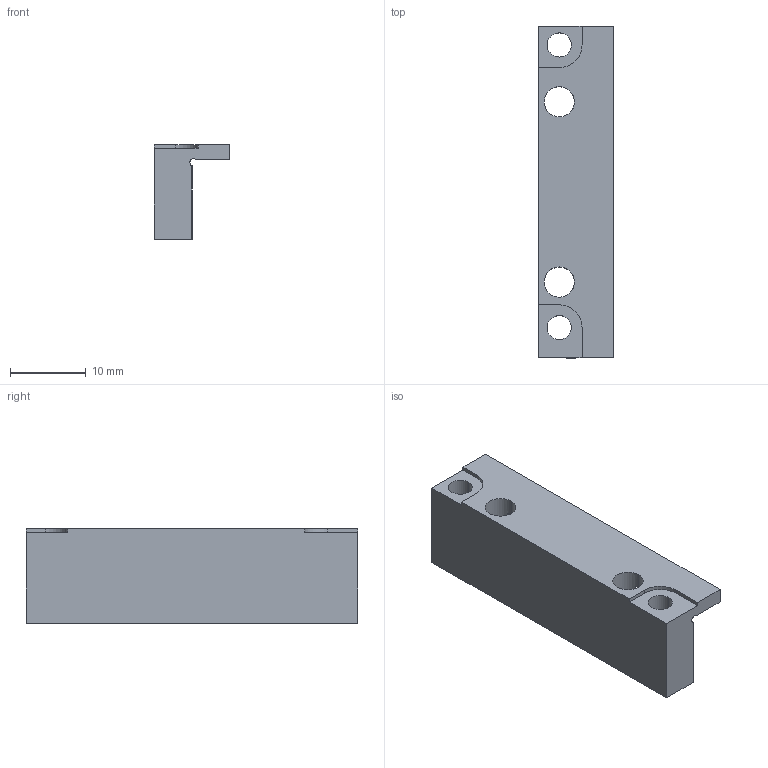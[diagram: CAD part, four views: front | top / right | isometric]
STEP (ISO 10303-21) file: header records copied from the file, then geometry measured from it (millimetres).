
FILE_DESCRIPTION (( 'STEP AP203' ), '1' );
FILE_NAME ('upperholder_lid_right.step', '2026-06-05T03:32:54', ( '' ), ( '' ), 'SwSTEP 2.0', 'SolidWorks 2024', '' );
FILE_SCHEMA (( 'CONFIG_CONTROL_DESIGN' ));
Length unit declared in the file: millimetre
Products named in the file (1): upperholder_lid_right
Bounding box: 10 x 43.8 x 12.5 mm (x, y, z)
Volume: 2623 mm3; surface area: 2601.7 mm2
Topology: 1 solids, 1 shells, 25 faces, 75 edges, 50 vertices
Faces by surface type: plane 14, cylinder 11
Entity records: 1004 total; most frequent: CARTESIAN_POINT 211, ORIENTED_EDGE 150, DIRECTION 145, EDGE_CURVE 75, VERTEX_POINT 50, LINE 49, VECTOR 49, AXIS2_PLACEMENT_3D 48
